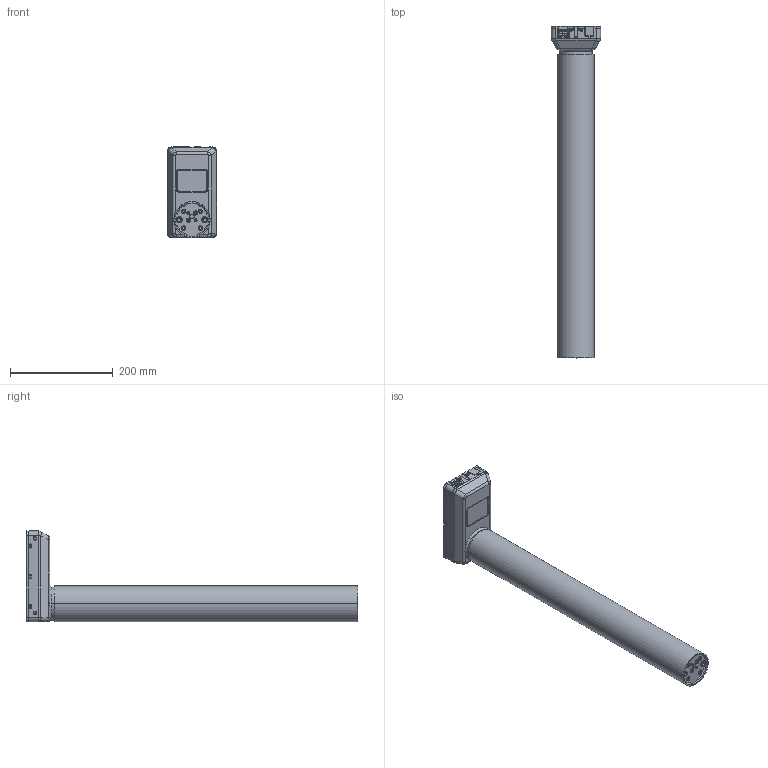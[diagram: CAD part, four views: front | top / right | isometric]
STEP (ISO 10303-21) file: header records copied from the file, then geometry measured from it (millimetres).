
FILE_DESCRIPTION((''),'2;1');
FILE_NAME('1040WTEST_ASM','2021-07-13T10:52:05',('frj'),(''),'CREO PARAMETRIC BY PTC INC, 2020454','CREO PARAMETRIC BY PTC INC, 2020454','');
FILE_SCHEMA(('AUTOMOTIVE_DESIGN { 1 0 10303 214 1 1 1 1 }'));
Length unit declared in the file: millimetre
Products named in the file (4): 1040W7901-03_STEP2; 1040W7901-01_STEP; COMMON; 1040WTEST_ASM
Assembly tree (3 placements, depth 2):
  1040WTEST_ASM
    1040W7901-03_STEP2
    1040W7901-01_STEP
    COMMON
Bounding box: 96.5 x 645 x 178.6 mm (x, y, z)
Volume: 4822528.4 mm3; surface area: 322651.2 mm2
Topology: 3 solids, 9 shells, 950 faces, 2541 edges, 1637 vertices
Faces by surface type: plane 397, cylinder 377, torus 96, bspline 52, cone 14, sphere 14
Entity records: 34610 total; most frequent: CARTESIAN_POINT 9501, ORIENTED_EDGE 5054, DIRECTION 5024, EDGE_CURVE 2527, AXIS2_PLACEMENT_3D 1863, VERTEX_POINT 1637, VECTOR 1298, LINE 1298
